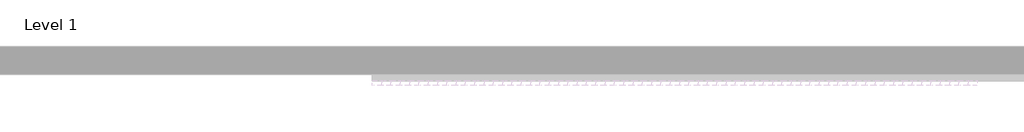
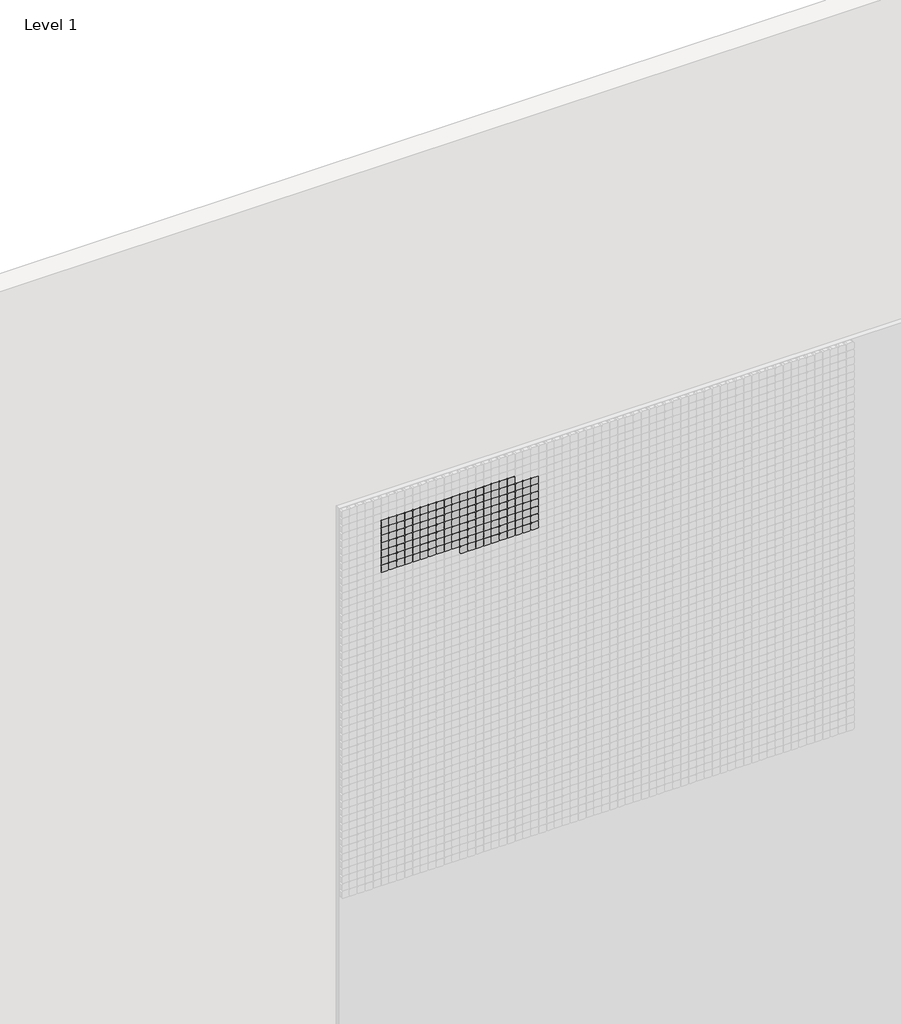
# One storey, part 8 of 71: 147 proxies.
"""IFC4 building model written with IfcOpenShell, lengths in millimetres."""

from ifc_helpers import new_model, si_unit, origin, place, context, project, spatial, transform, mapped, element, save
from components import generic_models_afde289c

model = new_model("IFC4")

# Units and contexts
model_context = context("Model", 3, world=origin())
ifc_project = project(units=[si_unit("LENGTHUNIT", "METRE", prefix="MILLI")], contexts=[model_context])

# Site, building, storey
site = spatial("IfcSite", under=ifc_project)
building = spatial("IfcBuilding", under=site)
storey = spatial("IfcBuildingStorey", under=building, Name="Level 1", Elevation=0.0)

# Proxies
placement = place(None, origin())
generic_models_shape = generic_models_afde289c(model_context)
element("IfcBuildingElementProxy", 1, Name="Pixel_M : Pixel_M", ObjectType="Pixel_M : Pixel_M", at=placement, inside=storey, context=model_context, shape_type="MappedRepresentation", body=[
    mapped(generic_models_shape, transform((5812.4280941, -75.0, 5816.3566215), x_axis=(1.0, 0.0, 0.0), y_axis=(0.0, 0.0, 1.0), z_axis=(0.0, -1.0, 0.0))),
])
element("IfcBuildingElementProxy", 2, Name="Pixel_M : Pixel_M", ObjectType="Pixel_M : Pixel_M", at=placement, inside=storey, context=model_context, shape_type="MappedRepresentation", body=[
    mapped(generic_models_shape, transform((5762.4280941, -75.0, 5816.3566215), x_axis=(1.0, 0.0, 0.0), y_axis=(0.0, 0.0, 1.0), z_axis=(0.0, -1.0, 0.0))),
])
element("IfcBuildingElementProxy", 3, Name="Pixel_M : Pixel_M", ObjectType="Pixel_M : Pixel_M", at=placement, inside=storey, context=model_context, shape_type="MappedRepresentation", body=[
    mapped(generic_models_shape, transform((5712.4280941, -75.0, 5816.3566215), x_axis=(1.0, 0.0, 0.0), y_axis=(0.0, 0.0, 1.0), z_axis=(0.0, -1.0, 0.0))),
])
element("IfcBuildingElementProxy", 4, Name="Pixel_M : Pixel_M", ObjectType="Pixel_M : Pixel_M", at=placement, inside=storey, context=model_context, shape_type="MappedRepresentation", body=[
    mapped(generic_models_shape, transform((5662.4280941, -75.0, 5816.3566215), x_axis=(1.0, 0.0, 0.0), y_axis=(0.0, 0.0, 1.0), z_axis=(0.0, -1.0, 0.0))),
])
element("IfcBuildingElementProxy", 5, Name="Pixel_M : Pixel_M", ObjectType="Pixel_M : Pixel_M", at=placement, inside=storey, context=model_context, shape_type="MappedRepresentation", body=[
    mapped(generic_models_shape, transform((5612.4280941, -75.0, 5816.3566215), x_axis=(1.0, 0.0, 0.0), y_axis=(0.0, 0.0, 1.0), z_axis=(0.0, -1.0, 0.0))),
])
element("IfcBuildingElementProxy", 6, Name="Pixel_M : Pixel_M", ObjectType="Pixel_M : Pixel_M", at=placement, inside=storey, context=model_context, shape_type="MappedRepresentation", body=[
    mapped(generic_models_shape, transform((5562.4280941, -75.0, 5816.3566215), x_axis=(1.0, 0.0, 0.0), y_axis=(0.0, 0.0, 1.0), z_axis=(0.0, -1.0, 0.0))),
])
element("IfcBuildingElementProxy", 7, Name="Pixel_M : Pixel_M", ObjectType="Pixel_M : Pixel_M", at=placement, inside=storey, context=model_context, shape_type="MappedRepresentation", body=[
    mapped(generic_models_shape, transform((5512.4280941, -75.0, 5816.3566215), x_axis=(1.0, 0.0, 0.0), y_axis=(0.0, 0.0, 1.0), z_axis=(0.0, -1.0, 0.0))),
])
element("IfcBuildingElementProxy", 8, Name="Pixel_M : Pixel_M", ObjectType="Pixel_M : Pixel_M", at=placement, inside=storey, context=model_context, shape_type="MappedRepresentation", body=[
    mapped(generic_models_shape, transform((5462.4280941, -75.0, 5816.3566215), x_axis=(1.0, 0.0, 0.0), y_axis=(0.0, 0.0, 1.0), z_axis=(0.0, -1.0, 0.0))),
])
element("IfcBuildingElementProxy", 9, Name="Pixel_M : Pixel_M", ObjectType="Pixel_M : Pixel_M", at=placement, inside=storey, context=model_context, shape_type="MappedRepresentation", body=[
    mapped(generic_models_shape, transform((5412.4280941, -75.0, 5816.3566215), x_axis=(1.0, 0.0, 0.0), y_axis=(0.0, 0.0, 1.0), z_axis=(0.0, -1.0, 0.0))),
])
element("IfcBuildingElementProxy", 10, Name="Pixel_M : Pixel_M", ObjectType="Pixel_M : Pixel_M", at=placement, inside=storey, context=model_context, shape_type="MappedRepresentation", body=[
    mapped(generic_models_shape, transform((5362.4280941, -75.0, 5816.3566215), x_axis=(1.0, 0.0, 0.0), y_axis=(0.0, 0.0, 1.0), z_axis=(0.0, -1.0, 0.0))),
])
element("IfcBuildingElementProxy", 11, Name="Pixel_M : Pixel_M", ObjectType="Pixel_M : Pixel_M", at=placement, inside=storey, context=model_context, shape_type="MappedRepresentation", body=[
    mapped(generic_models_shape, transform((5312.4280941, -75.0, 5816.3566215), x_axis=(1.0, 0.0, 0.0), y_axis=(0.0, 0.0, 1.0), z_axis=(0.0, -1.0, 0.0))),
])
element("IfcBuildingElementProxy", 12, Name="Pixel_M : Pixel_M", ObjectType="Pixel_M : Pixel_M", at=placement, inside=storey, context=model_context, shape_type="MappedRepresentation", body=[
    mapped(generic_models_shape, transform((5262.4280941, -75.0, 5816.3566215), x_axis=(1.0, 0.0, 0.0), y_axis=(0.0, 0.0, 1.0), z_axis=(0.0, -1.0, 0.0))),
])
element("IfcBuildingElementProxy", 13, Name="Pixel_M : Pixel_M", ObjectType="Pixel_M : Pixel_M", at=placement, inside=storey, context=model_context, shape_type="MappedRepresentation", body=[
    mapped(generic_models_shape, transform((5212.4280941, -75.0, 5816.3566215), x_axis=(1.0, 0.0, 0.0), y_axis=(0.0, 0.0, 1.0), z_axis=(0.0, -1.0, 0.0))),
])
element("IfcBuildingElementProxy", 14, Name="Pixel_M : Pixel_M", ObjectType="Pixel_M : Pixel_M", at=placement, inside=storey, context=model_context, shape_type="MappedRepresentation", body=[
    mapped(generic_models_shape, transform((5162.4280941, -75.0, 5816.3566215), x_axis=(1.0, 0.0, 0.0), y_axis=(0.0, 0.0, 1.0), z_axis=(0.0, -1.0, 0.0))),
])
element("IfcBuildingElementProxy", 15, Name="Pixel_M : Pixel_M", ObjectType="Pixel_M : Pixel_M", at=placement, inside=storey, context=model_context, shape_type="MappedRepresentation", body=[
    mapped(generic_models_shape, transform((5112.4280941, -75.0, 5816.3566215), x_axis=(1.0, 0.0, 0.0), y_axis=(0.0, 0.0, 1.0), z_axis=(0.0, -1.0, 0.0))),
])
element("IfcBuildingElementProxy", 16, Name="Pixel_M : Pixel_M", ObjectType="Pixel_M : Pixel_M", at=placement, inside=storey, context=model_context, shape_type="MappedRepresentation", body=[
    mapped(generic_models_shape, transform((5062.4280941, -75.0, 5816.3566215), x_axis=(1.0, 0.0, 0.0), y_axis=(0.0, 0.0, 1.0), z_axis=(0.0, -1.0, 0.0))),
])
element("IfcBuildingElementProxy", 17, Name="Pixel_M : Pixel_M", ObjectType="Pixel_M : Pixel_M", at=placement, inside=storey, context=model_context, shape_type="MappedRepresentation", body=[
    mapped(generic_models_shape, transform((5012.4280941, -75.0, 5816.3566215), x_axis=(1.0, 0.0, 0.0), y_axis=(0.0, 0.0, 1.0), z_axis=(0.0, -1.0, 0.0))),
])
element("IfcBuildingElementProxy", 18, Name="Pixel_M : Pixel_M", ObjectType="Pixel_M : Pixel_M", at=placement, inside=storey, context=model_context, shape_type="MappedRepresentation", body=[
    mapped(generic_models_shape, transform((5962.4280941, -75.0, 5766.3566215), x_axis=(1.0, 0.0, 0.0), y_axis=(0.0, 0.0, 1.0), z_axis=(0.0, -1.0, 0.0))),
])
element("IfcBuildingElementProxy", 19, Name="Pixel_M : Pixel_M", ObjectType="Pixel_M : Pixel_M", at=placement, inside=storey, context=model_context, shape_type="MappedRepresentation", body=[
    mapped(generic_models_shape, transform((5912.4280941, -75.0, 5766.3566215), x_axis=(1.0, 0.0, 0.0), y_axis=(0.0, 0.0, 1.0), z_axis=(0.0, -1.0, 0.0))),
])
element("IfcBuildingElementProxy", 20, Name="Pixel_M : Pixel_M", ObjectType="Pixel_M : Pixel_M", at=placement, inside=storey, context=model_context, shape_type="MappedRepresentation", body=[
    mapped(generic_models_shape, transform((5862.4280941, -75.0, 5766.3566215), x_axis=(1.0, 0.0, 0.0), y_axis=(0.0, 0.0, 1.0), z_axis=(0.0, -1.0, 0.0))),
])
element("IfcBuildingElementProxy", 21, Name="Pixel_M : Pixel_M", ObjectType="Pixel_M : Pixel_M", at=placement, inside=storey, context=model_context, shape_type="MappedRepresentation", body=[
    mapped(generic_models_shape, transform((5812.4280941, -75.0, 5766.3566215), x_axis=(1.0, 0.0, 0.0), y_axis=(0.0, 0.0, 1.0), z_axis=(0.0, -1.0, 0.0))),
])
element("IfcBuildingElementProxy", 22, Name="Pixel_M : Pixel_M", ObjectType="Pixel_M : Pixel_M", at=placement, inside=storey, context=model_context, shape_type="MappedRepresentation", body=[
    mapped(generic_models_shape, transform((5762.4280941, -75.0, 5766.3566215), x_axis=(1.0, 0.0, 0.0), y_axis=(0.0, 0.0, 1.0), z_axis=(0.0, -1.0, 0.0))),
])
element("IfcBuildingElementProxy", 23, Name="Pixel_M : Pixel_M", ObjectType="Pixel_M : Pixel_M", at=placement, inside=storey, context=model_context, shape_type="MappedRepresentation", body=[
    mapped(generic_models_shape, transform((5712.4280941, -75.0, 5766.3566215), x_axis=(1.0, 0.0, 0.0), y_axis=(0.0, 0.0, 1.0), z_axis=(0.0, -1.0, 0.0))),
])
element("IfcBuildingElementProxy", 24, Name="Pixel_M : Pixel_M", ObjectType="Pixel_M : Pixel_M", at=placement, inside=storey, context=model_context, shape_type="MappedRepresentation", body=[
    mapped(generic_models_shape, transform((5662.4280941, -75.0, 5766.3566215), x_axis=(1.0, 0.0, 0.0), y_axis=(0.0, 0.0, 1.0), z_axis=(0.0, -1.0, 0.0))),
])
element("IfcBuildingElementProxy", 25, Name="Pixel_M : Pixel_M", ObjectType="Pixel_M : Pixel_M", at=placement, inside=storey, context=model_context, shape_type="MappedRepresentation", body=[
    mapped(generic_models_shape, transform((5612.4280941, -75.0, 5766.3566215), x_axis=(1.0, 0.0, 0.0), y_axis=(0.0, 0.0, 1.0), z_axis=(0.0, -1.0, 0.0))),
])
element("IfcBuildingElementProxy", 26, Name="Pixel_M : Pixel_M", ObjectType="Pixel_M : Pixel_M", at=placement, inside=storey, context=model_context, shape_type="MappedRepresentation", body=[
    mapped(generic_models_shape, transform((5562.4280941, -75.0, 5766.3566215), x_axis=(1.0, 0.0, 0.0), y_axis=(0.0, 0.0, 1.0), z_axis=(0.0, -1.0, 0.0))),
])
element("IfcBuildingElementProxy", 27, Name="Pixel_M : Pixel_M", ObjectType="Pixel_M : Pixel_M", at=placement, inside=storey, context=model_context, shape_type="MappedRepresentation", body=[
    mapped(generic_models_shape, transform((5512.4280941, -75.0, 5766.3566215), x_axis=(1.0, 0.0, 0.0), y_axis=(0.0, 0.0, 1.0), z_axis=(0.0, -1.0, 0.0))),
])
element("IfcBuildingElementProxy", 28, Name="Pixel_M : Pixel_M", ObjectType="Pixel_M : Pixel_M", at=placement, inside=storey, context=model_context, shape_type="MappedRepresentation", body=[
    mapped(generic_models_shape, transform((5462.4280941, -75.0, 5766.3566215), x_axis=(1.0, 0.0, 0.0), y_axis=(0.0, 0.0, 1.0), z_axis=(0.0, -1.0, 0.0))),
])
element("IfcBuildingElementProxy", 29, Name="Pixel_M : Pixel_M", ObjectType="Pixel_M : Pixel_M", at=placement, inside=storey, context=model_context, shape_type="MappedRepresentation", body=[
    mapped(generic_models_shape, transform((5412.4280941, -75.0, 5766.3566215), x_axis=(1.0, 0.0, 0.0), y_axis=(0.0, 0.0, 1.0), z_axis=(0.0, -1.0, 0.0))),
])
element("IfcBuildingElementProxy", 30, Name="Pixel_M : Pixel_M", ObjectType="Pixel_M : Pixel_M", at=placement, inside=storey, context=model_context, shape_type="MappedRepresentation", body=[
    mapped(generic_models_shape, transform((5362.4280941, -75.0, 5766.3566215), x_axis=(1.0, 0.0, 0.0), y_axis=(0.0, 0.0, 1.0), z_axis=(0.0, -1.0, 0.0))),
])
element("IfcBuildingElementProxy", 31, Name="Pixel_M : Pixel_M", ObjectType="Pixel_M : Pixel_M", at=placement, inside=storey, context=model_context, shape_type="MappedRepresentation", body=[
    mapped(generic_models_shape, transform((5312.4280941, -75.0, 5766.3566215), x_axis=(1.0, 0.0, 0.0), y_axis=(0.0, 0.0, 1.0), z_axis=(0.0, -1.0, 0.0))),
])
element("IfcBuildingElementProxy", 32, Name="Pixel_M : Pixel_M", ObjectType="Pixel_M : Pixel_M", at=placement, inside=storey, context=model_context, shape_type="MappedRepresentation", body=[
    mapped(generic_models_shape, transform((5262.4280941, -75.0, 5766.3566215), x_axis=(1.0, 0.0, 0.0), y_axis=(0.0, 0.0, 1.0), z_axis=(0.0, -1.0, 0.0))),
])
element("IfcBuildingElementProxy", 33, Name="Pixel_M : Pixel_M", ObjectType="Pixel_M : Pixel_M", at=placement, inside=storey, context=model_context, shape_type="MappedRepresentation", body=[
    mapped(generic_models_shape, transform((5212.4280941, -75.0, 5766.3566215), x_axis=(1.0, 0.0, 0.0), y_axis=(0.0, 0.0, 1.0), z_axis=(0.0, -1.0, 0.0))),
])
element("IfcBuildingElementProxy", 34, Name="Pixel_M : Pixel_M", ObjectType="Pixel_M : Pixel_M", at=placement, inside=storey, context=model_context, shape_type="MappedRepresentation", body=[
    mapped(generic_models_shape, transform((5162.4280941, -75.0, 5766.3566215), x_axis=(1.0, 0.0, 0.0), y_axis=(0.0, 0.0, 1.0), z_axis=(0.0, -1.0, 0.0))),
])
element("IfcBuildingElementProxy", 35, Name="Pixel_M : Pixel_M", ObjectType="Pixel_M : Pixel_M", at=placement, inside=storey, context=model_context, shape_type="MappedRepresentation", body=[
    mapped(generic_models_shape, transform((5112.4280941, -75.0, 5766.3566215), x_axis=(1.0, 0.0, 0.0), y_axis=(0.0, 0.0, 1.0), z_axis=(0.0, -1.0, 0.0))),
])
element("IfcBuildingElementProxy", 36, Name="Pixel_M : Pixel_M", ObjectType="Pixel_M : Pixel_M", at=placement, inside=storey, context=model_context, shape_type="MappedRepresentation", body=[
    mapped(generic_models_shape, transform((5062.4280941, -75.0, 5766.3566215), x_axis=(1.0, 0.0, 0.0), y_axis=(0.0, 0.0, 1.0), z_axis=(0.0, -1.0, 0.0))),
])
element("IfcBuildingElementProxy", 37, Name="Pixel_M : Pixel_M", ObjectType="Pixel_M : Pixel_M", at=placement, inside=storey, context=model_context, shape_type="MappedRepresentation", body=[
    mapped(generic_models_shape, transform((5012.4280941, -75.0, 5766.3566215), x_axis=(1.0, 0.0, 0.0), y_axis=(0.0, 0.0, 1.0), z_axis=(0.0, -1.0, 0.0))),
])
element("IfcBuildingElementProxy", 38, Name="Pixel_M : Pixel_M", ObjectType="Pixel_M : Pixel_M", at=placement, inside=storey, context=model_context, shape_type="MappedRepresentation", body=[
    mapped(generic_models_shape, transform((5962.4280941, -75.0, 5716.3566215), x_axis=(1.0, 0.0, 0.0), y_axis=(0.0, 0.0, 1.0), z_axis=(0.0, -1.0, 0.0))),
])
element("IfcBuildingElementProxy", 39, Name="Pixel_M : Pixel_M", ObjectType="Pixel_M : Pixel_M", at=placement, inside=storey, context=model_context, shape_type="MappedRepresentation", body=[
    mapped(generic_models_shape, transform((5912.4280941, -75.0, 5716.3566215), x_axis=(1.0, 0.0, 0.0), y_axis=(0.0, 0.0, 1.0), z_axis=(0.0, -1.0, 0.0))),
])
element("IfcBuildingElementProxy", 40, Name="Pixel_M : Pixel_M", ObjectType="Pixel_M : Pixel_M", at=placement, inside=storey, context=model_context, shape_type="MappedRepresentation", body=[
    mapped(generic_models_shape, transform((5862.4280941, -75.0, 5716.3566215), x_axis=(1.0, 0.0, 0.0), y_axis=(0.0, 0.0, 1.0), z_axis=(0.0, -1.0, 0.0))),
])
element("IfcBuildingElementProxy", 41, Name="Pixel_M : Pixel_M", ObjectType="Pixel_M : Pixel_M", at=placement, inside=storey, context=model_context, shape_type="MappedRepresentation", body=[
    mapped(generic_models_shape, transform((5812.4280941, -75.0, 5716.3566215), x_axis=(1.0, 0.0, 0.0), y_axis=(0.0, 0.0, 1.0), z_axis=(0.0, -1.0, 0.0))),
])
element("IfcBuildingElementProxy", 42, Name="Pixel_M : Pixel_M", ObjectType="Pixel_M : Pixel_M", at=placement, inside=storey, context=model_context, shape_type="MappedRepresentation", body=[
    mapped(generic_models_shape, transform((5762.4280941, -75.0, 5716.3566215), x_axis=(1.0, 0.0, 0.0), y_axis=(0.0, 0.0, 1.0), z_axis=(0.0, -1.0, 0.0))),
])
element("IfcBuildingElementProxy", 43, Name="Pixel_M : Pixel_M", ObjectType="Pixel_M : Pixel_M", at=placement, inside=storey, context=model_context, shape_type="MappedRepresentation", body=[
    mapped(generic_models_shape, transform((5712.4280941, -75.0, 5716.3566215), x_axis=(1.0, 0.0, 0.0), y_axis=(0.0, 0.0, 1.0), z_axis=(0.0, -1.0, 0.0))),
])
element("IfcBuildingElementProxy", 44, Name="Pixel_M : Pixel_M", ObjectType="Pixel_M : Pixel_M", at=placement, inside=storey, context=model_context, shape_type="MappedRepresentation", body=[
    mapped(generic_models_shape, transform((5662.4280941, -75.0, 5716.3566215), x_axis=(1.0, 0.0, 0.0), y_axis=(0.0, 0.0, 1.0), z_axis=(0.0, -1.0, 0.0))),
])
element("IfcBuildingElementProxy", 45, Name="Pixel_M : Pixel_M", ObjectType="Pixel_M : Pixel_M", at=placement, inside=storey, context=model_context, shape_type="MappedRepresentation", body=[
    mapped(generic_models_shape, transform((5612.4280941, -75.0, 5716.3566215), x_axis=(1.0, 0.0, 0.0), y_axis=(0.0, 0.0, 1.0), z_axis=(0.0, -1.0, 0.0))),
])
element("IfcBuildingElementProxy", 46, Name="Pixel_M : Pixel_M", ObjectType="Pixel_M : Pixel_M", at=placement, inside=storey, context=model_context, shape_type="MappedRepresentation", body=[
    mapped(generic_models_shape, transform((5562.4280941, -75.0, 5716.3566215), x_axis=(1.0, 0.0, 0.0), y_axis=(0.0, 0.0, 1.0), z_axis=(0.0, -1.0, 0.0))),
])
element("IfcBuildingElementProxy", 47, Name="Pixel_M : Pixel_M", ObjectType="Pixel_M : Pixel_M", at=placement, inside=storey, context=model_context, shape_type="MappedRepresentation", body=[
    mapped(generic_models_shape, transform((5512.4280941, -75.0, 5716.3566215), x_axis=(1.0, 0.0, 0.0), y_axis=(0.0, 0.0, 1.0), z_axis=(0.0, -1.0, 0.0))),
])
element("IfcBuildingElementProxy", 48, Name="Pixel_M : Pixel_M", ObjectType="Pixel_M : Pixel_M", at=placement, inside=storey, context=model_context, shape_type="MappedRepresentation", body=[
    mapped(generic_models_shape, transform((5462.4280941, -75.0, 5716.3566215), x_axis=(1.0, 0.0, 0.0), y_axis=(0.0, 0.0, 1.0), z_axis=(0.0, -1.0, 0.0))),
])
element("IfcBuildingElementProxy", 49, Name="Pixel_M : Pixel_M", ObjectType="Pixel_M : Pixel_M", at=placement, inside=storey, context=model_context, shape_type="MappedRepresentation", body=[
    mapped(generic_models_shape, transform((5412.4280941, -75.0, 5716.3566215), x_axis=(1.0, 0.0, 0.0), y_axis=(0.0, 0.0, 1.0), z_axis=(0.0, -1.0, 0.0))),
])
element("IfcBuildingElementProxy", 50, Name="Pixel_M : Pixel_M", ObjectType="Pixel_M : Pixel_M", at=placement, inside=storey, context=model_context, shape_type="MappedRepresentation", body=[
    mapped(generic_models_shape, transform((5362.4280941, -75.0, 5716.3566215), x_axis=(1.0, 0.0, 0.0), y_axis=(0.0, 0.0, 1.0), z_axis=(0.0, -1.0, 0.0))),
])
element("IfcBuildingElementProxy", 51, Name="Pixel_M : Pixel_M", ObjectType="Pixel_M : Pixel_M", at=placement, inside=storey, context=model_context, shape_type="MappedRepresentation", body=[
    mapped(generic_models_shape, transform((5312.4280941, -75.0, 5716.3566215), x_axis=(1.0, 0.0, 0.0), y_axis=(0.0, 0.0, 1.0), z_axis=(0.0, -1.0, 0.0))),
])
element("IfcBuildingElementProxy", 52, Name="Pixel_M : Pixel_M", ObjectType="Pixel_M : Pixel_M", at=placement, inside=storey, context=model_context, shape_type="MappedRepresentation", body=[
    mapped(generic_models_shape, transform((5262.4280941, -75.0, 5716.3566215), x_axis=(1.0, 0.0, 0.0), y_axis=(0.0, 0.0, 1.0), z_axis=(0.0, -1.0, 0.0))),
])
element("IfcBuildingElementProxy", 53, Name="Pixel_M : Pixel_M", ObjectType="Pixel_M : Pixel_M", at=placement, inside=storey, context=model_context, shape_type="MappedRepresentation", body=[
    mapped(generic_models_shape, transform((5212.4280941, -75.0, 5716.3566215), x_axis=(1.0, 0.0, 0.0), y_axis=(0.0, 0.0, 1.0), z_axis=(0.0, -1.0, 0.0))),
])
element("IfcBuildingElementProxy", 54, Name="Pixel_M : Pixel_M", ObjectType="Pixel_M : Pixel_M", at=placement, inside=storey, context=model_context, shape_type="MappedRepresentation", body=[
    mapped(generic_models_shape, transform((5162.4280941, -75.0, 5716.3566215), x_axis=(1.0, 0.0, 0.0), y_axis=(0.0, 0.0, 1.0), z_axis=(0.0, -1.0, 0.0))),
])
element("IfcBuildingElementProxy", 55, Name="Pixel_M : Pixel_M", ObjectType="Pixel_M : Pixel_M", at=placement, inside=storey, context=model_context, shape_type="MappedRepresentation", body=[
    mapped(generic_models_shape, transform((5112.4280941, -75.0, 5716.3566215), x_axis=(1.0, 0.0, 0.0), y_axis=(0.0, 0.0, 1.0), z_axis=(0.0, -1.0, 0.0))),
])
element("IfcBuildingElementProxy", 56, Name="Pixel_M : Pixel_M", ObjectType="Pixel_M : Pixel_M", at=placement, inside=storey, context=model_context, shape_type="MappedRepresentation", body=[
    mapped(generic_models_shape, transform((5062.4280941, -75.0, 5716.3566215), x_axis=(1.0, 0.0, 0.0), y_axis=(0.0, 0.0, 1.0), z_axis=(0.0, -1.0, 0.0))),
])
element("IfcBuildingElementProxy", 57, Name="Pixel_M : Pixel_M", ObjectType="Pixel_M : Pixel_M", at=placement, inside=storey, context=model_context, shape_type="MappedRepresentation", body=[
    mapped(generic_models_shape, transform((5012.4280941, -75.0, 5716.3566215), x_axis=(1.0, 0.0, 0.0), y_axis=(0.0, 0.0, 1.0), z_axis=(0.0, -1.0, 0.0))),
])
element("IfcBuildingElementProxy", 58, Name="Pixel_M : Pixel_M", ObjectType="Pixel_M : Pixel_M", at=placement, inside=storey, context=model_context, shape_type="MappedRepresentation", body=[
    mapped(generic_models_shape, transform((5962.4280941, -75.0, 5666.3566215), x_axis=(1.0, 0.0, 0.0), y_axis=(0.0, 0.0, 1.0), z_axis=(0.0, -1.0, 0.0))),
])
element("IfcBuildingElementProxy", 59, Name="Pixel_M : Pixel_M", ObjectType="Pixel_M : Pixel_M", at=placement, inside=storey, context=model_context, shape_type="MappedRepresentation", body=[
    mapped(generic_models_shape, transform((5912.4280941, -75.0, 5666.3566215), x_axis=(1.0, 0.0, 0.0), y_axis=(0.0, 0.0, 1.0), z_axis=(0.0, -1.0, 0.0))),
])
element("IfcBuildingElementProxy", 60, Name="Pixel_M : Pixel_M", ObjectType="Pixel_M : Pixel_M", at=placement, inside=storey, context=model_context, shape_type="MappedRepresentation", body=[
    mapped(generic_models_shape, transform((5862.4280941, -75.0, 5666.3566215), x_axis=(1.0, 0.0, 0.0), y_axis=(0.0, 0.0, 1.0), z_axis=(0.0, -1.0, 0.0))),
])
element("IfcBuildingElementProxy", 61, Name="Pixel_M : Pixel_M", ObjectType="Pixel_M : Pixel_M", at=placement, inside=storey, context=model_context, shape_type="MappedRepresentation", body=[
    mapped(generic_models_shape, transform((5812.4280941, -75.0, 5666.3566215), x_axis=(1.0, 0.0, 0.0), y_axis=(0.0, 0.0, 1.0), z_axis=(0.0, -1.0, 0.0))),
])
element("IfcBuildingElementProxy", 62, Name="Pixel_M : Pixel_M", ObjectType="Pixel_M : Pixel_M", at=placement, inside=storey, context=model_context, shape_type="MappedRepresentation", body=[
    mapped(generic_models_shape, transform((5762.4280941, -75.0, 5666.3566215), x_axis=(1.0, 0.0, 0.0), y_axis=(0.0, 0.0, 1.0), z_axis=(0.0, -1.0, 0.0))),
])
element("IfcBuildingElementProxy", 63, Name="Pixel_M : Pixel_M", ObjectType="Pixel_M : Pixel_M", at=placement, inside=storey, context=model_context, shape_type="MappedRepresentation", body=[
    mapped(generic_models_shape, transform((5712.4280941, -75.0, 5666.3566215), x_axis=(1.0, 0.0, 0.0), y_axis=(0.0, 0.0, 1.0), z_axis=(0.0, -1.0, 0.0))),
])
element("IfcBuildingElementProxy", 64, Name="Pixel_M : Pixel_M", ObjectType="Pixel_M : Pixel_M", at=placement, inside=storey, context=model_context, shape_type="MappedRepresentation", body=[
    mapped(generic_models_shape, transform((5662.4280941, -75.0, 5666.3566215), x_axis=(1.0, 0.0, 0.0), y_axis=(0.0, 0.0, 1.0), z_axis=(0.0, -1.0, 0.0))),
])
element("IfcBuildingElementProxy", 65, Name="Pixel_M : Pixel_M", ObjectType="Pixel_M : Pixel_M", at=placement, inside=storey, context=model_context, shape_type="MappedRepresentation", body=[
    mapped(generic_models_shape, transform((5612.4280941, -75.0, 5666.3566215), x_axis=(1.0, 0.0, 0.0), y_axis=(0.0, 0.0, 1.0), z_axis=(0.0, -1.0, 0.0))),
])
element("IfcBuildingElementProxy", 66, Name="Pixel_M : Pixel_M", ObjectType="Pixel_M : Pixel_M", at=placement, inside=storey, context=model_context, shape_type="MappedRepresentation", body=[
    mapped(generic_models_shape, transform((5562.4280941, -75.0, 5666.3566215), x_axis=(1.0, 0.0, 0.0), y_axis=(0.0, 0.0, 1.0), z_axis=(0.0, -1.0, 0.0))),
])
element("IfcBuildingElementProxy", 67, Name="Pixel_M : Pixel_M", ObjectType="Pixel_M : Pixel_M", at=placement, inside=storey, context=model_context, shape_type="MappedRepresentation", body=[
    mapped(generic_models_shape, transform((5512.4280941, -75.0, 5666.3566215), x_axis=(1.0, 0.0, 0.0), y_axis=(0.0, 0.0, 1.0), z_axis=(0.0, -1.0, 0.0))),
])
element("IfcBuildingElementProxy", 68, Name="Pixel_M : Pixel_M", ObjectType="Pixel_M : Pixel_M", at=placement, inside=storey, context=model_context, shape_type="MappedRepresentation", body=[
    mapped(generic_models_shape, transform((5462.4280941, -75.0, 5666.3566215), x_axis=(1.0, 0.0, 0.0), y_axis=(0.0, 0.0, 1.0), z_axis=(0.0, -1.0, 0.0))),
])
element("IfcBuildingElementProxy", 69, Name="Pixel_M : Pixel_M", ObjectType="Pixel_M : Pixel_M", at=placement, inside=storey, context=model_context, shape_type="MappedRepresentation", body=[
    mapped(generic_models_shape, transform((5412.4280941, -75.0, 5666.3566215), x_axis=(1.0, 0.0, 0.0), y_axis=(0.0, 0.0, 1.0), z_axis=(0.0, -1.0, 0.0))),
])
element("IfcBuildingElementProxy", 70, Name="Pixel_M : Pixel_M", ObjectType="Pixel_M : Pixel_M", at=placement, inside=storey, context=model_context, shape_type="MappedRepresentation", body=[
    mapped(generic_models_shape, transform((5362.4280941, -75.0, 5666.3566215), x_axis=(1.0, 0.0, 0.0), y_axis=(0.0, 0.0, 1.0), z_axis=(0.0, -1.0, 0.0))),
])
element("IfcBuildingElementProxy", 71, Name="Pixel_M : Pixel_M", ObjectType="Pixel_M : Pixel_M", at=placement, inside=storey, context=model_context, shape_type="MappedRepresentation", body=[
    mapped(generic_models_shape, transform((5312.4280941, -75.0, 5666.3566215), x_axis=(1.0, 0.0, 0.0), y_axis=(0.0, 0.0, 1.0), z_axis=(0.0, -1.0, 0.0))),
])
element("IfcBuildingElementProxy", 72, Name="Pixel_M : Pixel_M", ObjectType="Pixel_M : Pixel_M", at=placement, inside=storey, context=model_context, shape_type="MappedRepresentation", body=[
    mapped(generic_models_shape, transform((5262.4280941, -75.0, 5666.3566215), x_axis=(1.0, 0.0, 0.0), y_axis=(0.0, 0.0, 1.0), z_axis=(0.0, -1.0, 0.0))),
])
element("IfcBuildingElementProxy", 73, Name="Pixel_M : Pixel_M", ObjectType="Pixel_M : Pixel_M", at=placement, inside=storey, context=model_context, shape_type="MappedRepresentation", body=[
    mapped(generic_models_shape, transform((5212.4280941, -75.0, 5666.3566215), x_axis=(1.0, 0.0, 0.0), y_axis=(0.0, 0.0, 1.0), z_axis=(0.0, -1.0, 0.0))),
])
element("IfcBuildingElementProxy", 74, Name="Pixel_M : Pixel_M", ObjectType="Pixel_M : Pixel_M", at=placement, inside=storey, context=model_context, shape_type="MappedRepresentation", body=[
    mapped(generic_models_shape, transform((5162.4280941, -75.0, 5666.3566215), x_axis=(1.0, 0.0, 0.0), y_axis=(0.0, 0.0, 1.0), z_axis=(0.0, -1.0, 0.0))),
])
element("IfcBuildingElementProxy", 75, Name="Pixel_M : Pixel_M", ObjectType="Pixel_M : Pixel_M", at=placement, inside=storey, context=model_context, shape_type="MappedRepresentation", body=[
    mapped(generic_models_shape, transform((5112.4280941, -75.0, 5666.3566215), x_axis=(1.0, 0.0, 0.0), y_axis=(0.0, 0.0, 1.0), z_axis=(0.0, -1.0, 0.0))),
])
element("IfcBuildingElementProxy", 76, Name="Pixel_M : Pixel_M", ObjectType="Pixel_M : Pixel_M", at=placement, inside=storey, context=model_context, shape_type="MappedRepresentation", body=[
    mapped(generic_models_shape, transform((5062.4280941, -75.0, 5666.3566215), x_axis=(1.0, 0.0, 0.0), y_axis=(0.0, 0.0, 1.0), z_axis=(0.0, -1.0, 0.0))),
])
element("IfcBuildingElementProxy", 77, Name="Pixel_M : Pixel_M", ObjectType="Pixel_M : Pixel_M", at=placement, inside=storey, context=model_context, shape_type="MappedRepresentation", body=[
    mapped(generic_models_shape, transform((5012.4280941, -75.0, 5666.3566215), x_axis=(1.0, 0.0, 0.0), y_axis=(0.0, 0.0, 1.0), z_axis=(0.0, -1.0, 0.0))),
])
element("IfcBuildingElementProxy", 78, Name="Pixel_M : Pixel_M", ObjectType="Pixel_M : Pixel_M", at=placement, inside=storey, context=model_context, shape_type="MappedRepresentation", body=[
    mapped(generic_models_shape, transform((5962.4280941, -75.0, 5616.3566215), x_axis=(1.0, 0.0, 0.0), y_axis=(0.0, 0.0, 1.0), z_axis=(0.0, -1.0, 0.0))),
])
element("IfcBuildingElementProxy", 79, Name="Pixel_M : Pixel_M", ObjectType="Pixel_M : Pixel_M", at=placement, inside=storey, context=model_context, shape_type="MappedRepresentation", body=[
    mapped(generic_models_shape, transform((5912.4280941, -75.0, 5616.3566215), x_axis=(1.0, 0.0, 0.0), y_axis=(0.0, 0.0, 1.0), z_axis=(0.0, -1.0, 0.0))),
])
element("IfcBuildingElementProxy", 80, Name="Pixel_M : Pixel_M", ObjectType="Pixel_M : Pixel_M", at=placement, inside=storey, context=model_context, shape_type="MappedRepresentation", body=[
    mapped(generic_models_shape, transform((5862.4280941, -75.0, 5616.3566215), x_axis=(1.0, 0.0, 0.0), y_axis=(0.0, 0.0, 1.0), z_axis=(0.0, -1.0, 0.0))),
])
element("IfcBuildingElementProxy", 81, Name="Pixel_M : Pixel_M", ObjectType="Pixel_M : Pixel_M", at=placement, inside=storey, context=model_context, shape_type="MappedRepresentation", body=[
    mapped(generic_models_shape, transform((5812.4280941, -75.0, 5616.3566215), x_axis=(1.0, 0.0, 0.0), y_axis=(0.0, 0.0, 1.0), z_axis=(0.0, -1.0, 0.0))),
])
element("IfcBuildingElementProxy", 82, Name="Pixel_M : Pixel_M", ObjectType="Pixel_M : Pixel_M", at=placement, inside=storey, context=model_context, shape_type="MappedRepresentation", body=[
    mapped(generic_models_shape, transform((5762.4280941, -75.0, 5616.3566215), x_axis=(1.0, 0.0, 0.0), y_axis=(0.0, 0.0, 1.0), z_axis=(0.0, -1.0, 0.0))),
])
element("IfcBuildingElementProxy", 83, Name="Pixel_M : Pixel_M", ObjectType="Pixel_M : Pixel_M", at=placement, inside=storey, context=model_context, shape_type="MappedRepresentation", body=[
    mapped(generic_models_shape, transform((5712.4280941, -75.0, 5616.3566215), x_axis=(1.0, 0.0, 0.0), y_axis=(0.0, 0.0, 1.0), z_axis=(0.0, -1.0, 0.0))),
])
element("IfcBuildingElementProxy", 84, Name="Pixel_M : Pixel_M", ObjectType="Pixel_M : Pixel_M", at=placement, inside=storey, context=model_context, shape_type="MappedRepresentation", body=[
    mapped(generic_models_shape, transform((5662.4280941, -75.0, 5616.3566215), x_axis=(1.0, 0.0, 0.0), y_axis=(0.0, 0.0, 1.0), z_axis=(0.0, -1.0, 0.0))),
])
element("IfcBuildingElementProxy", 85, Name="Pixel_M : Pixel_M", ObjectType="Pixel_M : Pixel_M", at=placement, inside=storey, context=model_context, shape_type="MappedRepresentation", body=[
    mapped(generic_models_shape, transform((5612.4280941, -75.0, 5616.3566215), x_axis=(1.0, 0.0, 0.0), y_axis=(0.0, 0.0, 1.0), z_axis=(0.0, -1.0, 0.0))),
])
element("IfcBuildingElementProxy", 86, Name="Pixel_M : Pixel_M", ObjectType="Pixel_M : Pixel_M", at=placement, inside=storey, context=model_context, shape_type="MappedRepresentation", body=[
    mapped(generic_models_shape, transform((5562.4280941, -75.0, 5616.3566215), x_axis=(1.0, 0.0, 0.0), y_axis=(0.0, 0.0, 1.0), z_axis=(0.0, -1.0, 0.0))),
])
element("IfcBuildingElementProxy", 87, Name="Pixel_M : Pixel_M", ObjectType="Pixel_M : Pixel_M", at=placement, inside=storey, context=model_context, shape_type="MappedRepresentation", body=[
    mapped(generic_models_shape, transform((5512.4280941, -75.0, 5616.3566215), x_axis=(1.0, 0.0, 0.0), y_axis=(0.0, 0.0, 1.0), z_axis=(0.0, -1.0, 0.0))),
])
element("IfcBuildingElementProxy", 88, Name="Pixel_M : Pixel_M", ObjectType="Pixel_M : Pixel_M", at=placement, inside=storey, context=model_context, shape_type="MappedRepresentation", body=[
    mapped(generic_models_shape, transform((5462.4280941, -75.0, 5616.3566215), x_axis=(1.0, 0.0, 0.0), y_axis=(0.0, 0.0, 1.0), z_axis=(0.0, -1.0, 0.0))),
])
element("IfcBuildingElementProxy", 89, Name="Pixel_M : Pixel_M", ObjectType="Pixel_M : Pixel_M", at=placement, inside=storey, context=model_context, shape_type="MappedRepresentation", body=[
    mapped(generic_models_shape, transform((5412.4280941, -75.0, 5616.3566215), x_axis=(1.0, 0.0, 0.0), y_axis=(0.0, 0.0, 1.0), z_axis=(0.0, -1.0, 0.0))),
])
element("IfcBuildingElementProxy", 90, Name="Pixel_M : Pixel_M", ObjectType="Pixel_M : Pixel_M", at=placement, inside=storey, context=model_context, shape_type="MappedRepresentation", body=[
    mapped(generic_models_shape, transform((5362.4280941, -75.0, 5616.3566215), x_axis=(1.0, 0.0, 0.0), y_axis=(0.0, 0.0, 1.0), z_axis=(0.0, -1.0, 0.0))),
])
element("IfcBuildingElementProxy", 91, Name="Pixel_M : Pixel_M", ObjectType="Pixel_M : Pixel_M", at=placement, inside=storey, context=model_context, shape_type="MappedRepresentation", body=[
    mapped(generic_models_shape, transform((5312.4280941, -75.0, 5616.3566215), x_axis=(1.0, 0.0, 0.0), y_axis=(0.0, 0.0, 1.0), z_axis=(0.0, -1.0, 0.0))),
])
element("IfcBuildingElementProxy", 92, Name="Pixel_M : Pixel_M", ObjectType="Pixel_M : Pixel_M", at=placement, inside=storey, context=model_context, shape_type="MappedRepresentation", body=[
    mapped(generic_models_shape, transform((5262.4280941, -75.0, 5616.3566215), x_axis=(1.0, 0.0, 0.0), y_axis=(0.0, 0.0, 1.0), z_axis=(0.0, -1.0, 0.0))),
])
element("IfcBuildingElementProxy", 93, Name="Pixel_M : Pixel_M", ObjectType="Pixel_M : Pixel_M", at=placement, inside=storey, context=model_context, shape_type="MappedRepresentation", body=[
    mapped(generic_models_shape, transform((5212.4280941, -75.0, 5616.3566215), x_axis=(1.0, 0.0, 0.0), y_axis=(0.0, 0.0, 1.0), z_axis=(0.0, -1.0, 0.0))),
])
element("IfcBuildingElementProxy", 94, Name="Pixel_M : Pixel_M", ObjectType="Pixel_M : Pixel_M", at=placement, inside=storey, context=model_context, shape_type="MappedRepresentation", body=[
    mapped(generic_models_shape, transform((5162.4280941, -75.0, 5616.3566215), x_axis=(1.0, 0.0, 0.0), y_axis=(0.0, 0.0, 1.0), z_axis=(0.0, -1.0, 0.0))),
])
element("IfcBuildingElementProxy", 95, Name="Pixel_M : Pixel_M", ObjectType="Pixel_M : Pixel_M", at=placement, inside=storey, context=model_context, shape_type="MappedRepresentation", body=[
    mapped(generic_models_shape, transform((5112.4280941, -75.0, 5616.3566215), x_axis=(1.0, 0.0, 0.0), y_axis=(0.0, 0.0, 1.0), z_axis=(0.0, -1.0, 0.0))),
])
element("IfcBuildingElementProxy", 96, Name="Pixel_M : Pixel_M", ObjectType="Pixel_M : Pixel_M", at=placement, inside=storey, context=model_context, shape_type="MappedRepresentation", body=[
    mapped(generic_models_shape, transform((5062.4280941, -75.0, 5616.3566215), x_axis=(1.0, 0.0, 0.0), y_axis=(0.0, 0.0, 1.0), z_axis=(0.0, -1.0, 0.0))),
])
element("IfcBuildingElementProxy", 97, Name="Pixel_M : Pixel_M", ObjectType="Pixel_M : Pixel_M", at=placement, inside=storey, context=model_context, shape_type="MappedRepresentation", body=[
    mapped(generic_models_shape, transform((5012.4280941, -75.0, 5616.3566215), x_axis=(1.0, 0.0, 0.0), y_axis=(0.0, 0.0, 1.0), z_axis=(0.0, -1.0, 0.0))),
])
element("IfcBuildingElementProxy", 98, Name="Pixel_M : Pixel_M", ObjectType="Pixel_M : Pixel_M", at=placement, inside=storey, context=model_context, shape_type="MappedRepresentation", body=[
    mapped(generic_models_shape, transform((5962.4280941, -75.0, 5566.3566215), x_axis=(1.0, 0.0, 0.0), y_axis=(0.0, 0.0, 1.0), z_axis=(0.0, -1.0, 0.0))),
])
element("IfcBuildingElementProxy", 99, Name="Pixel_M : Pixel_M", ObjectType="Pixel_M : Pixel_M", at=placement, inside=storey, context=model_context, shape_type="MappedRepresentation", body=[
    mapped(generic_models_shape, transform((5912.4280941, -75.0, 5566.3566215), x_axis=(1.0, 0.0, 0.0), y_axis=(0.0, 0.0, 1.0), z_axis=(0.0, -1.0, 0.0))),
])
element("IfcBuildingElementProxy", 100, Name="Pixel_M : Pixel_M", ObjectType="Pixel_M : Pixel_M", at=placement, inside=storey, context=model_context, shape_type="MappedRepresentation", body=[
    mapped(generic_models_shape, transform((5862.4280941, -75.0, 5566.3566215), x_axis=(1.0, 0.0, 0.0), y_axis=(0.0, 0.0, 1.0), z_axis=(0.0, -1.0, 0.0))),
])
element("IfcBuildingElementProxy", 101, Name="Pixel_M : Pixel_M", ObjectType="Pixel_M : Pixel_M", at=placement, inside=storey, context=model_context, shape_type="MappedRepresentation", body=[
    mapped(generic_models_shape, transform((5812.4280941, -75.0, 5566.3566215), x_axis=(1.0, 0.0, 0.0), y_axis=(0.0, 0.0, 1.0), z_axis=(0.0, -1.0, 0.0))),
])
element("IfcBuildingElementProxy", 102, Name="Pixel_M : Pixel_M", ObjectType="Pixel_M : Pixel_M", at=placement, inside=storey, context=model_context, shape_type="MappedRepresentation", body=[
    mapped(generic_models_shape, transform((5762.4280941, -75.0, 5566.3566215), x_axis=(1.0, 0.0, 0.0), y_axis=(0.0, 0.0, 1.0), z_axis=(0.0, -1.0, 0.0))),
])
element("IfcBuildingElementProxy", 103, Name="Pixel_M : Pixel_M", ObjectType="Pixel_M : Pixel_M", at=placement, inside=storey, context=model_context, shape_type="MappedRepresentation", body=[
    mapped(generic_models_shape, transform((5712.4280941, -75.0, 5566.3566215), x_axis=(1.0, 0.0, 0.0), y_axis=(0.0, 0.0, 1.0), z_axis=(0.0, -1.0, 0.0))),
])
element("IfcBuildingElementProxy", 104, Name="Pixel_M : Pixel_M", ObjectType="Pixel_M : Pixel_M", at=placement, inside=storey, context=model_context, shape_type="MappedRepresentation", body=[
    mapped(generic_models_shape, transform((5662.4280941, -75.0, 5566.3566215), x_axis=(1.0, 0.0, 0.0), y_axis=(0.0, 0.0, 1.0), z_axis=(0.0, -1.0, 0.0))),
])
element("IfcBuildingElementProxy", 105, Name="Pixel_M : Pixel_M", ObjectType="Pixel_M : Pixel_M", at=placement, inside=storey, context=model_context, shape_type="MappedRepresentation", body=[
    mapped(generic_models_shape, transform((5612.4280941, -75.0, 5566.3566215), x_axis=(1.0, 0.0, 0.0), y_axis=(0.0, 0.0, 1.0), z_axis=(0.0, -1.0, 0.0))),
])
element("IfcBuildingElementProxy", 106, Name="Pixel_M : Pixel_M", ObjectType="Pixel_M : Pixel_M", at=placement, inside=storey, context=model_context, shape_type="MappedRepresentation", body=[
    mapped(generic_models_shape, transform((5562.4280941, -75.0, 5566.3566215), x_axis=(1.0, 0.0, 0.0), y_axis=(0.0, 0.0, 1.0), z_axis=(0.0, -1.0, 0.0))),
])
element("IfcBuildingElementProxy", 107, Name="Pixel_M : Pixel_M", ObjectType="Pixel_M : Pixel_M", at=placement, inside=storey, context=model_context, shape_type="MappedRepresentation", body=[
    mapped(generic_models_shape, transform((5512.4280941, -75.0, 5566.3566215), x_axis=(1.0, 0.0, 0.0), y_axis=(0.0, 0.0, 1.0), z_axis=(0.0, -1.0, 0.0))),
])
element("IfcBuildingElementProxy", 108, Name="Pixel_M : Pixel_M", ObjectType="Pixel_M : Pixel_M", at=placement, inside=storey, context=model_context, shape_type="MappedRepresentation", body=[
    mapped(generic_models_shape, transform((5462.4280941, -75.0, 5566.3566215), x_axis=(1.0, 0.0, 0.0), y_axis=(0.0, 0.0, 1.0), z_axis=(0.0, -1.0, 0.0))),
])
element("IfcBuildingElementProxy", 109, Name="Pixel_M : Pixel_M", ObjectType="Pixel_M : Pixel_M", at=placement, inside=storey, context=model_context, shape_type="MappedRepresentation", body=[
    mapped(generic_models_shape, transform((5412.4280941, -75.0, 5566.3566215), x_axis=(1.0, 0.0, 0.0), y_axis=(0.0, 0.0, 1.0), z_axis=(0.0, -1.0, 0.0))),
])
element("IfcBuildingElementProxy", 110, Name="Pixel_M : Pixel_M", ObjectType="Pixel_M : Pixel_M", at=placement, inside=storey, context=model_context, shape_type="MappedRepresentation", body=[
    mapped(generic_models_shape, transform((5362.4280941, -75.0, 5566.3566215), x_axis=(1.0, 0.0, 0.0), y_axis=(0.0, 0.0, 1.0), z_axis=(0.0, -1.0, 0.0))),
])
element("IfcBuildingElementProxy", 111, Name="Pixel_M : Pixel_M", ObjectType="Pixel_M : Pixel_M", at=placement, inside=storey, context=model_context, shape_type="MappedRepresentation", body=[
    mapped(generic_models_shape, transform((5312.4280941, -75.0, 5566.3566215), x_axis=(1.0, 0.0, 0.0), y_axis=(0.0, 0.0, 1.0), z_axis=(0.0, -1.0, 0.0))),
])
element("IfcBuildingElementProxy", 112, Name="Pixel_M : Pixel_M", ObjectType="Pixel_M : Pixel_M", at=placement, inside=storey, context=model_context, shape_type="MappedRepresentation", body=[
    mapped(generic_models_shape, transform((5262.4280941, -75.0, 5566.3566215), x_axis=(1.0, 0.0, 0.0), y_axis=(0.0, 0.0, 1.0), z_axis=(0.0, -1.0, 0.0))),
])
element("IfcBuildingElementProxy", 113, Name="Pixel_M : Pixel_M", ObjectType="Pixel_M : Pixel_M", at=placement, inside=storey, context=model_context, shape_type="MappedRepresentation", body=[
    mapped(generic_models_shape, transform((5212.4280941, -75.0, 5566.3566215), x_axis=(1.0, 0.0, 0.0), y_axis=(0.0, 0.0, 1.0), z_axis=(0.0, -1.0, 0.0))),
])
element("IfcBuildingElementProxy", 114, Name="Pixel_M : Pixel_M", ObjectType="Pixel_M : Pixel_M", at=placement, inside=storey, context=model_context, shape_type="MappedRepresentation", body=[
    mapped(generic_models_shape, transform((5162.4280941, -75.0, 5566.3566215), x_axis=(1.0, 0.0, 0.0), y_axis=(0.0, 0.0, 1.0), z_axis=(0.0, -1.0, 0.0))),
])
element("IfcBuildingElementProxy", 115, Name="Pixel_M : Pixel_M", ObjectType="Pixel_M : Pixel_M", at=placement, inside=storey, context=model_context, shape_type="MappedRepresentation", body=[
    mapped(generic_models_shape, transform((5112.4280941, -75.0, 5566.3566215), x_axis=(1.0, 0.0, 0.0), y_axis=(0.0, 0.0, 1.0), z_axis=(0.0, -1.0, 0.0))),
])
element("IfcBuildingElementProxy", 116, Name="Pixel_M : Pixel_M", ObjectType="Pixel_M : Pixel_M", at=placement, inside=storey, context=model_context, shape_type="MappedRepresentation", body=[
    mapped(generic_models_shape, transform((5062.4280941, -75.0, 5566.3566215), x_axis=(1.0, 0.0, 0.0), y_axis=(0.0, 0.0, 1.0), z_axis=(0.0, -1.0, 0.0))),
])
element("IfcBuildingElementProxy", 117, Name="Pixel_M : Pixel_M", ObjectType="Pixel_M : Pixel_M", at=placement, inside=storey, context=model_context, shape_type="MappedRepresentation", body=[
    mapped(generic_models_shape, transform((5012.4280941, -75.0, 5566.3566215), x_axis=(1.0, 0.0, 0.0), y_axis=(0.0, 0.0, 1.0), z_axis=(0.0, -1.0, 0.0))),
])
element("IfcBuildingElementProxy", 118, Name="Pixel_M : Pixel_M", ObjectType="Pixel_M : Pixel_M", at=placement, inside=storey, context=model_context, shape_type="MappedRepresentation", body=[
    mapped(generic_models_shape, transform((5962.4280941, -75.0, 5516.3566215), x_axis=(1.0, 0.0, 0.0), y_axis=(0.0, 0.0, 1.0), z_axis=(0.0, -1.0, 0.0))),
])
element("IfcBuildingElementProxy", 119, Name="Pixel_M : Pixel_M", ObjectType="Pixel_M : Pixel_M", at=placement, inside=storey, context=model_context, shape_type="MappedRepresentation", body=[
    mapped(generic_models_shape, transform((5912.4280941, -75.0, 5516.3566215), x_axis=(1.0, 0.0, 0.0), y_axis=(0.0, 0.0, 1.0), z_axis=(0.0, -1.0, 0.0))),
])
element("IfcBuildingElementProxy", 120, Name="Pixel_M : Pixel_M", ObjectType="Pixel_M : Pixel_M", at=placement, inside=storey, context=model_context, shape_type="MappedRepresentation", body=[
    mapped(generic_models_shape, transform((5862.4280941, -75.0, 5516.3566215), x_axis=(1.0, 0.0, 0.0), y_axis=(0.0, 0.0, 1.0), z_axis=(0.0, -1.0, 0.0))),
])
element("IfcBuildingElementProxy", 121, Name="Pixel_M : Pixel_M", ObjectType="Pixel_M : Pixel_M", at=placement, inside=storey, context=model_context, shape_type="MappedRepresentation", body=[
    mapped(generic_models_shape, transform((5812.4280941, -75.0, 5516.3566215), x_axis=(1.0, 0.0, 0.0), y_axis=(0.0, 0.0, 1.0), z_axis=(0.0, -1.0, 0.0))),
])
element("IfcBuildingElementProxy", 122, Name="Pixel_M : Pixel_M", ObjectType="Pixel_M : Pixel_M", at=placement, inside=storey, context=model_context, shape_type="MappedRepresentation", body=[
    mapped(generic_models_shape, transform((5762.4280941, -75.0, 5516.3566215), x_axis=(1.0, 0.0, 0.0), y_axis=(0.0, 0.0, 1.0), z_axis=(0.0, -1.0, 0.0))),
])
element("IfcBuildingElementProxy", 123, Name="Pixel_M : Pixel_M", ObjectType="Pixel_M : Pixel_M", at=placement, inside=storey, context=model_context, shape_type="MappedRepresentation", body=[
    mapped(generic_models_shape, transform((5712.4280941, -75.0, 5516.3566215), x_axis=(1.0, 0.0, 0.0), y_axis=(0.0, 0.0, 1.0), z_axis=(0.0, -1.0, 0.0))),
])
element("IfcBuildingElementProxy", 124, Name="Pixel_M : Pixel_M", ObjectType="Pixel_M : Pixel_M", at=placement, inside=storey, context=model_context, shape_type="MappedRepresentation", body=[
    mapped(generic_models_shape, transform((5662.4280941, -75.0, 5516.3566215), x_axis=(1.0, 0.0, 0.0), y_axis=(0.0, 0.0, 1.0), z_axis=(0.0, -1.0, 0.0))),
])
element("IfcBuildingElementProxy", 125, Name="Pixel_M : Pixel_M", ObjectType="Pixel_M : Pixel_M", at=placement, inside=storey, context=model_context, shape_type="MappedRepresentation", body=[
    mapped(generic_models_shape, transform((5612.4280941, -75.0, 5516.3566215), x_axis=(1.0, 0.0, 0.0), y_axis=(0.0, 0.0, 1.0), z_axis=(0.0, -1.0, 0.0))),
])
element("IfcBuildingElementProxy", 126, Name="Pixel_M : Pixel_M", ObjectType="Pixel_M : Pixel_M", at=placement, inside=storey, context=model_context, shape_type="MappedRepresentation", body=[
    mapped(generic_models_shape, transform((5562.4280941, -75.0, 5516.3566215), x_axis=(1.0, 0.0, 0.0), y_axis=(0.0, 0.0, 1.0), z_axis=(0.0, -1.0, 0.0))),
])
element("IfcBuildingElementProxy", 127, Name="Pixel_M : Pixel_M", ObjectType="Pixel_M : Pixel_M", at=placement, inside=storey, context=model_context, shape_type="MappedRepresentation", body=[
    mapped(generic_models_shape, transform((5512.4280941, -75.0, 5516.3566215), x_axis=(1.0, 0.0, 0.0), y_axis=(0.0, 0.0, 1.0), z_axis=(0.0, -1.0, 0.0))),
])
element("IfcBuildingElementProxy", 128, Name="Pixel_M : Pixel_M", ObjectType="Pixel_M : Pixel_M", at=placement, inside=storey, context=model_context, shape_type="MappedRepresentation", body=[
    mapped(generic_models_shape, transform((5462.4280941, -75.0, 5516.3566215), x_axis=(1.0, 0.0, 0.0), y_axis=(0.0, 0.0, 1.0), z_axis=(0.0, -1.0, 0.0))),
])
element("IfcBuildingElementProxy", 129, Name="Pixel_M : Pixel_M", ObjectType="Pixel_M : Pixel_M", at=placement, inside=storey, context=model_context, shape_type="MappedRepresentation", body=[
    mapped(generic_models_shape, transform((5412.4280941, -75.0, 5516.3566215), x_axis=(1.0, 0.0, 0.0), y_axis=(0.0, 0.0, 1.0), z_axis=(0.0, -1.0, 0.0))),
])
element("IfcBuildingElementProxy", 130, Name="Pixel_M : Pixel_M", ObjectType="Pixel_M : Pixel_M", at=placement, inside=storey, context=model_context, shape_type="MappedRepresentation", body=[
    mapped(generic_models_shape, transform((5362.4280941, -75.0, 5516.3566215), x_axis=(1.0, 0.0, 0.0), y_axis=(0.0, 0.0, 1.0), z_axis=(0.0, -1.0, 0.0))),
])
element("IfcBuildingElementProxy", 131, Name="Pixel_M : Pixel_M", ObjectType="Pixel_M : Pixel_M", at=placement, inside=storey, context=model_context, shape_type="MappedRepresentation", body=[
    mapped(generic_models_shape, transform((5312.4280941, -75.0, 5516.3566215), x_axis=(1.0, 0.0, 0.0), y_axis=(0.0, 0.0, 1.0), z_axis=(0.0, -1.0, 0.0))),
])
element("IfcBuildingElementProxy", 132, Name="Pixel_M : Pixel_M", ObjectType="Pixel_M : Pixel_M", at=placement, inside=storey, context=model_context, shape_type="MappedRepresentation", body=[
    mapped(generic_models_shape, transform((5262.4280941, -75.0, 5516.3566215), x_axis=(1.0, 0.0, 0.0), y_axis=(0.0, 0.0, 1.0), z_axis=(0.0, -1.0, 0.0))),
])
element("IfcBuildingElementProxy", 133, Name="Pixel_M : Pixel_M", ObjectType="Pixel_M : Pixel_M", at=placement, inside=storey, context=model_context, shape_type="MappedRepresentation", body=[
    mapped(generic_models_shape, transform((5212.4280941, -75.0, 5516.3566215), x_axis=(1.0, 0.0, 0.0), y_axis=(0.0, 0.0, 1.0), z_axis=(0.0, -1.0, 0.0))),
])
element("IfcBuildingElementProxy", 134, Name="Pixel_M : Pixel_M", ObjectType="Pixel_M : Pixel_M", at=placement, inside=storey, context=model_context, shape_type="MappedRepresentation", body=[
    mapped(generic_models_shape, transform((5162.4280941, -75.0, 5516.3566215), x_axis=(1.0, 0.0, 0.0), y_axis=(0.0, 0.0, 1.0), z_axis=(0.0, -1.0, 0.0))),
])
element("IfcBuildingElementProxy", 135, Name="Pixel_M : Pixel_M", ObjectType="Pixel_M : Pixel_M", at=placement, inside=storey, context=model_context, shape_type="MappedRepresentation", body=[
    mapped(generic_models_shape, transform((5112.4280941, -75.0, 5516.3566215), x_axis=(1.0, 0.0, 0.0), y_axis=(0.0, 0.0, 1.0), z_axis=(0.0, -1.0, 0.0))),
])
element("IfcBuildingElementProxy", 136, Name="Pixel_M : Pixel_M", ObjectType="Pixel_M : Pixel_M", at=placement, inside=storey, context=model_context, shape_type="MappedRepresentation", body=[
    mapped(generic_models_shape, transform((5062.4280941, -75.0, 5516.3566215), x_axis=(1.0, 0.0, 0.0), y_axis=(0.0, 0.0, 1.0), z_axis=(0.0, -1.0, 0.0))),
])
element("IfcBuildingElementProxy", 137, Name="Pixel_M : Pixel_M", ObjectType="Pixel_M : Pixel_M", at=placement, inside=storey, context=model_context, shape_type="MappedRepresentation", body=[
    mapped(generic_models_shape, transform((5012.4280941, -75.0, 5516.3566215), x_axis=(1.0, 0.0, 0.0), y_axis=(0.0, 0.0, 1.0), z_axis=(0.0, -1.0, 0.0))),
])
element("IfcBuildingElementProxy", 138, Name="Pixel_M : Pixel_M", ObjectType="Pixel_M : Pixel_M", at=placement, inside=storey, context=model_context, shape_type="MappedRepresentation", body=[
    mapped(generic_models_shape, transform((5962.4280941, -75.0, 5466.3566215), x_axis=(1.0, 0.0, 0.0), y_axis=(0.0, 0.0, 1.0), z_axis=(0.0, -1.0, 0.0))),
])
element("IfcBuildingElementProxy", 139, Name="Pixel_M : Pixel_M", ObjectType="Pixel_M : Pixel_M", at=placement, inside=storey, context=model_context, shape_type="MappedRepresentation", body=[
    mapped(generic_models_shape, transform((5912.4280941, -75.0, 5466.3566215), x_axis=(1.0, 0.0, 0.0), y_axis=(0.0, 0.0, 1.0), z_axis=(0.0, -1.0, 0.0))),
])
element("IfcBuildingElementProxy", 140, Name="Pixel_M : Pixel_M", ObjectType="Pixel_M : Pixel_M", at=placement, inside=storey, context=model_context, shape_type="MappedRepresentation", body=[
    mapped(generic_models_shape, transform((5862.4280941, -75.0, 5466.3566215), x_axis=(1.0, 0.0, 0.0), y_axis=(0.0, 0.0, 1.0), z_axis=(0.0, -1.0, 0.0))),
])
element("IfcBuildingElementProxy", 141, Name="Pixel_M : Pixel_M", ObjectType="Pixel_M : Pixel_M", at=placement, inside=storey, context=model_context, shape_type="MappedRepresentation", body=[
    mapped(generic_models_shape, transform((5812.4280941, -75.0, 5466.3566215), x_axis=(1.0, 0.0, 0.0), y_axis=(0.0, 0.0, 1.0), z_axis=(0.0, -1.0, 0.0))),
])
element("IfcBuildingElementProxy", 142, Name="Pixel_M : Pixel_M", ObjectType="Pixel_M : Pixel_M", at=placement, inside=storey, context=model_context, shape_type="MappedRepresentation", body=[
    mapped(generic_models_shape, transform((5762.4280941, -75.0, 5466.3566215), x_axis=(1.0, 0.0, 0.0), y_axis=(0.0, 0.0, 1.0), z_axis=(0.0, -1.0, 0.0))),
])
element("IfcBuildingElementProxy", 143, Name="Pixel_M : Pixel_M", ObjectType="Pixel_M : Pixel_M", at=placement, inside=storey, context=model_context, shape_type="MappedRepresentation", body=[
    mapped(generic_models_shape, transform((5712.4280941, -75.0, 5466.3566215), x_axis=(1.0, 0.0, 0.0), y_axis=(0.0, 0.0, 1.0), z_axis=(0.0, -1.0, 0.0))),
])
element("IfcBuildingElementProxy", 144, Name="Pixel_M : Pixel_M", ObjectType="Pixel_M : Pixel_M", at=placement, inside=storey, context=model_context, shape_type="MappedRepresentation", body=[
    mapped(generic_models_shape, transform((5662.4280941, -75.0, 5466.3566215), x_axis=(1.0, 0.0, 0.0), y_axis=(0.0, 0.0, 1.0), z_axis=(0.0, -1.0, 0.0))),
])
element("IfcBuildingElementProxy", 145, Name="Pixel_M : Pixel_M", ObjectType="Pixel_M : Pixel_M", at=placement, inside=storey, context=model_context, shape_type="MappedRepresentation", body=[
    mapped(generic_models_shape, transform((5612.4280941, -75.0, 5466.3566215), x_axis=(1.0, 0.0, 0.0), y_axis=(0.0, 0.0, 1.0), z_axis=(0.0, -1.0, 0.0))),
])
element("IfcBuildingElementProxy", 146, Name="Pixel_M : Pixel_M", ObjectType="Pixel_M : Pixel_M", at=placement, inside=storey, context=model_context, shape_type="MappedRepresentation", body=[
    mapped(generic_models_shape, transform((5562.4280941, -75.0, 5466.3566215), x_axis=(1.0, 0.0, 0.0), y_axis=(0.0, 0.0, 1.0), z_axis=(0.0, -1.0, 0.0))),
])
element("IfcBuildingElementProxy", 147, Name="Pixel_M : Pixel_M", ObjectType="Pixel_M : Pixel_M", at=placement, inside=storey, context=model_context, shape_type="MappedRepresentation", body=[
    mapped(generic_models_shape, transform((5512.4280941, -75.0, 5466.3566215), x_axis=(1.0, 0.0, 0.0), y_axis=(0.0, 0.0, 1.0), z_axis=(0.0, -1.0, 0.0))),
])

save(model, "model.ifc")
